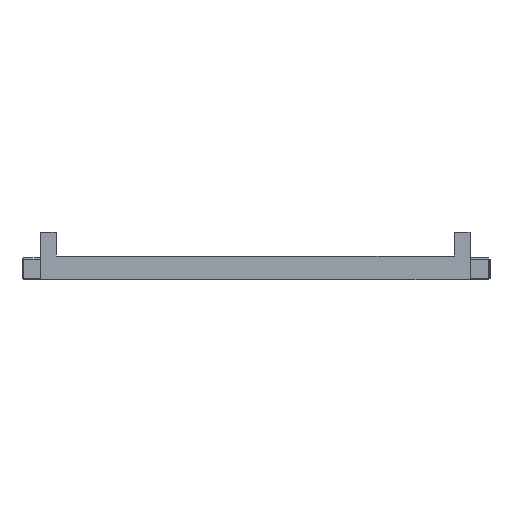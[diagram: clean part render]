
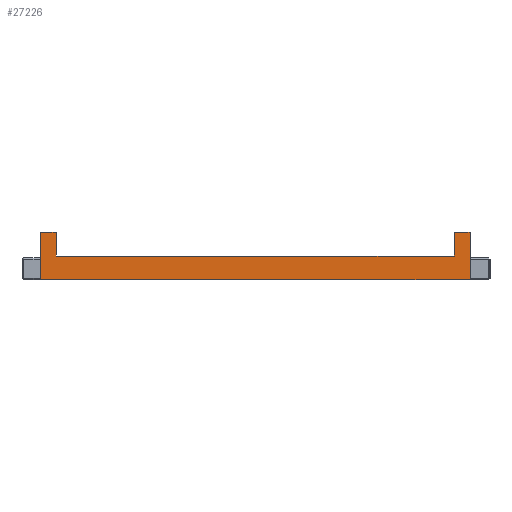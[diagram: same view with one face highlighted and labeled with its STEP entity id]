
A CAD part, left-side view. The second image highlights one B-rep face of the part: STEP entity #27226.
In plain terms, the highlighted planar face has unit normal (-1, 0, 0).
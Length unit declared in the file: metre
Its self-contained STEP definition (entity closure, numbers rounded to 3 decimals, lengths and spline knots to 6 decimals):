
#2787=ORIENTED_EDGE('',*,*,#11078,.T.);
#2788=ORIENTED_EDGE('',*,*,#11079,.F.);
#2789=ORIENTED_EDGE('',*,*,#9951,.F.);
#2790=ORIENTED_EDGE('',*,*,#11080,.T.);
#2791=ORIENTED_EDGE('',*,*,#11081,.T.);
#2792=ORIENTED_EDGE('',*,*,#9967,.T.);
#2793=ORIENTED_EDGE('',*,*,#11041,.F.);
#2794=ORIENTED_EDGE('',*,*,#11076,.T.);
#9951=EDGE_CURVE('',#14103,#14076,#16848,.T.);
#9967=EDGE_CURVE('',#14120,#14118,#16858,.T.);
#11041=EDGE_CURVE('',#15192,#14118,#17560,.T.);
#11076=EDGE_CURVE('',#15192,#15215,#17595,.T.);
#11078=EDGE_CURVE('',#15215,#15217,#17597,.T.);
#11079=EDGE_CURVE('',#14076,#15217,#17598,.T.);
#11080=EDGE_CURVE('',#14103,#15218,#17599,.T.);
#11081=EDGE_CURVE('',#15218,#14120,#17600,.T.);
#14076=VERTEX_POINT('',#34733);
#14103=VERTEX_POINT('',#34786);
#14118=VERTEX_POINT('',#34830);
#14120=VERTEX_POINT('',#34833);
#15192=VERTEX_POINT('',#37734);
#15215=VERTEX_POINT('',#37793);
#15217=VERTEX_POINT('',#37799);
#15218=VERTEX_POINT('',#37802);
#16848=LINE('',#34787,#19928);
#16858=LINE('',#34832,#19938);
#17560=LINE('',#37735,#20640);
#17595=LINE('',#37795,#20675);
#17597=LINE('',#37798,#20677);
#17598=LINE('',#37800,#20678);
#17599=LINE('',#37801,#20679);
#17600=LINE('',#37803,#20680);
#19928=VECTOR('',#29735,1.);
#19938=VECTOR('',#29747,1.);
#20640=VECTOR('',#30473,1.);
#20675=VECTOR('',#30510,1.);
#20677=VECTOR('',#30514,1.);
#20678=VECTOR('',#30515,1.);
#20679=VECTOR('',#30516,1.);
#20680=VECTOR('',#30517,1.);
#23081=EDGE_LOOP('',(#2787,#2788,#2789,#2790,#2791,#2792,#2793,#2794));
#24710=FACE_BOUND('',#23081,.T.);
#26254=PLANE('',#28747);
#27226=ADVANCED_FACE('',(#24710),#26254,.F.);
#28747=AXIS2_PLACEMENT_3D('',#37797,#30512,#30513);
#29735=DIRECTION('',(0.,0.,-1.));
#29747=DIRECTION('',(0.,1.,0.));
#30473=DIRECTION('',(0.,0.,-1.));
#30510=DIRECTION('',(0.,1.,0.));
#30512=DIRECTION('',(1.,0.,0.));
#30513=DIRECTION('',(0.,0.,-1.));
#30514=DIRECTION('',(0.,0.,-1.));
#30515=DIRECTION('',(0.,1.,0.));
#30516=DIRECTION('',(0.,1.,0.));
#30517=DIRECTION('',(0.,0.,-1.));
#34733=CARTESIAN_POINT('',(-0.055219,-0.054,-0.009308));
#34786=CARTESIAN_POINT('',(-0.055219,-0.054,-0.003308));
#34787=CARTESIAN_POINT('',(-0.055219,-0.054,-0.004808));
#34830=CARTESIAN_POINT('',(-0.055219,-0.002,-0.006308));
#34832=CARTESIAN_POINT('',(-0.055219,-0.052,-0.006308));
#34833=CARTESIAN_POINT('',(-0.055219,-0.052,-0.006308));
#37734=CARTESIAN_POINT('',(-0.055219,-0.002,-0.003308));
#37735=CARTESIAN_POINT('',(-0.055219,-0.002,-0.006308));
#37793=CARTESIAN_POINT('',(-0.055219,0.,-0.003308));
#37795=CARTESIAN_POINT('',(-0.055219,-0.002,-0.003308));
#37797=CARTESIAN_POINT('',(-0.055219,-0.002,-0.006308));
#37798=CARTESIAN_POINT('',(-0.055219,0.,-0.006308));
#37799=CARTESIAN_POINT('',(-0.055219,0.,-0.009308));
#37800=CARTESIAN_POINT('',(-0.055219,-0.002,-0.009308));
#37801=CARTESIAN_POINT('',(-0.055219,-0.054,-0.003308));
#37802=CARTESIAN_POINT('',(-0.055219,-0.052,-0.003308));
#37803=CARTESIAN_POINT('',(-0.055219,-0.052,-0.004808));
